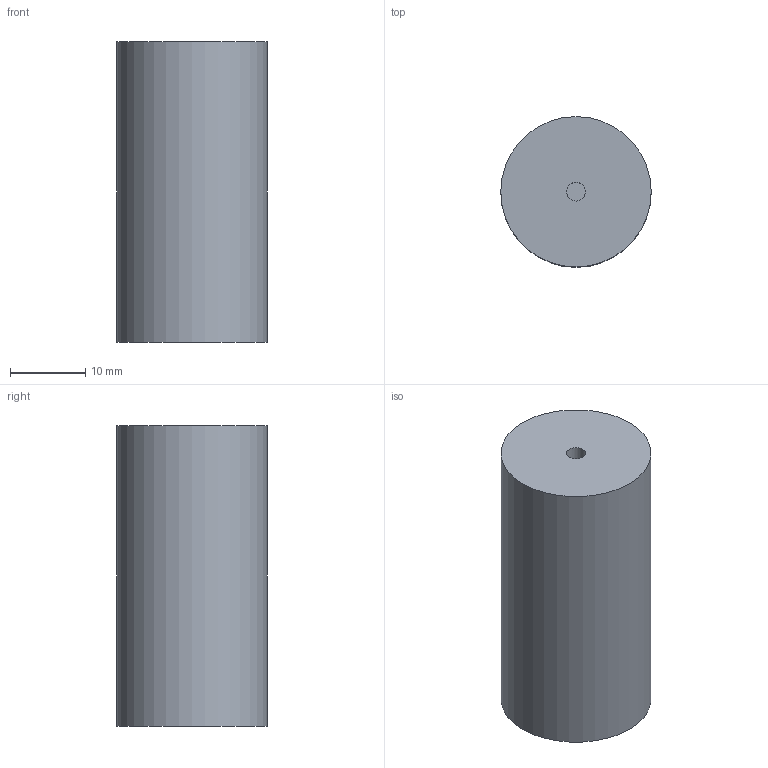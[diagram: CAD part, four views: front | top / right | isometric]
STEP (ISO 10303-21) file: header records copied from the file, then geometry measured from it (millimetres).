
FILE_DESCRIPTION(('Open CASCADE Model'),'2;1');
FILE_NAME('Open CASCADE Shape Model','2026-10-21T17:23:52',('Author'),( 'Open CASCADE'),'Open CASCADE STEP processor 7.9','Open CASCADE 7.9' ,'Unknown');
FILE_SCHEMA(('AUTOMOTIVE_DESIGN { 1 0 10303 214 1 1 1 1 }'));
Length unit declared in the file: millimetre
Products named in the file (1): Open CASCADE STEP translator 7.9 46
Bounding box: 20 x 20 x 40 mm (x, y, z)
Volume: 12492.7 mm3; surface area: 3259.4 mm2
Topology: 1 solids, 1 shells, 5 faces, 6 edges, 4 vertices
Faces by surface type: plane 3, cylinder 2
Full cylindrical faces by diameter (mm): 2.5 x1, 20 x1
Entity records: 195 total; most frequent: CARTESIAN_POINT 34, DIRECTION 33, ORIENTED_EDGE 12, PCURVE 12, DEFINITIONAL_REPRESENTATION 12, AXIS2_PLACEMENT_3D 10, LINE 10, VECTOR 10
